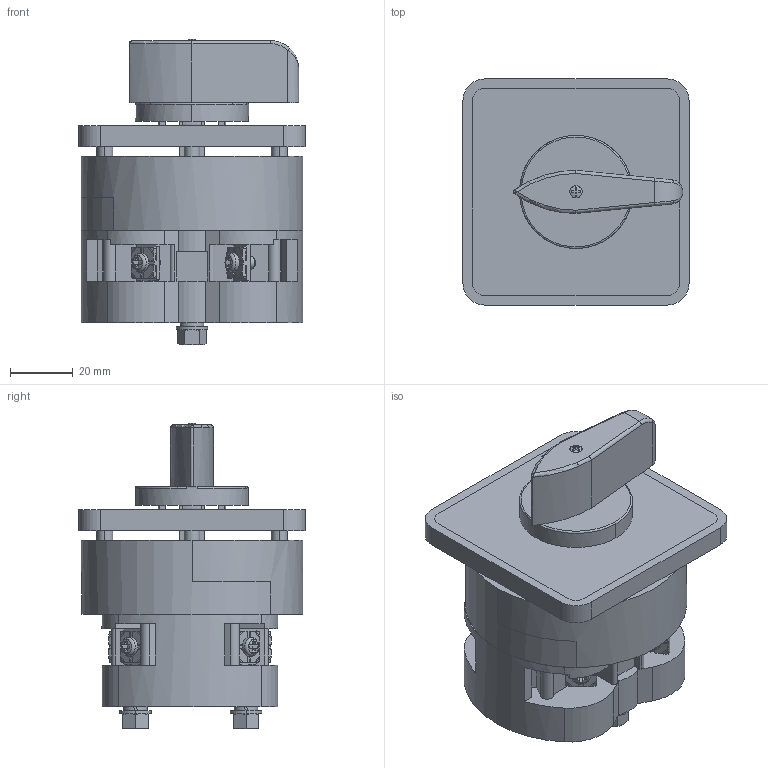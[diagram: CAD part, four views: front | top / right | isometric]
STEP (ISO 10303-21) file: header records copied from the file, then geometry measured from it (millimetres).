
FILE_DESCRIPTION((''),'2;1');
FILE_NAME('2470000100_SW0001','2025-04-08T',('sipei.wu'),(''),'PRO/ENGINEER BY PARAMETRIC TECHNOLOGY CORPORATION, 2015440','PRO/ENGINEER BY PARAMETRIC TECHNOLOGY CORPORATION, 2015440','');
FILE_SCHEMA(('CONFIG_CONTROL_DESIGN'));
Length unit declared in the file: millimetre
Products named in the file (1): 2470000100_SW0001
Bounding box: 72 x 72 x 97.13 mm (x, y, z)
Volume: 192899.1 mm3; surface area: 72729 mm2
Topology: 1 solids, 7 shells, 1350 faces, 3748 edges, 2392 vertices
Faces by surface type: plane 845, cylinder 382, cone 66, torus 42, sphere 10, bspline 5
Entity records: 44866 total; most frequent: CARTESIAN_POINT 9506, ORIENTED_EDGE 7496, DIRECTION 7443, EDGE_CURVE 3748, AXIS2_PLACEMENT_3D 2559, VERTEX_POINT 2392, VECTOR 2325, LINE 2325
